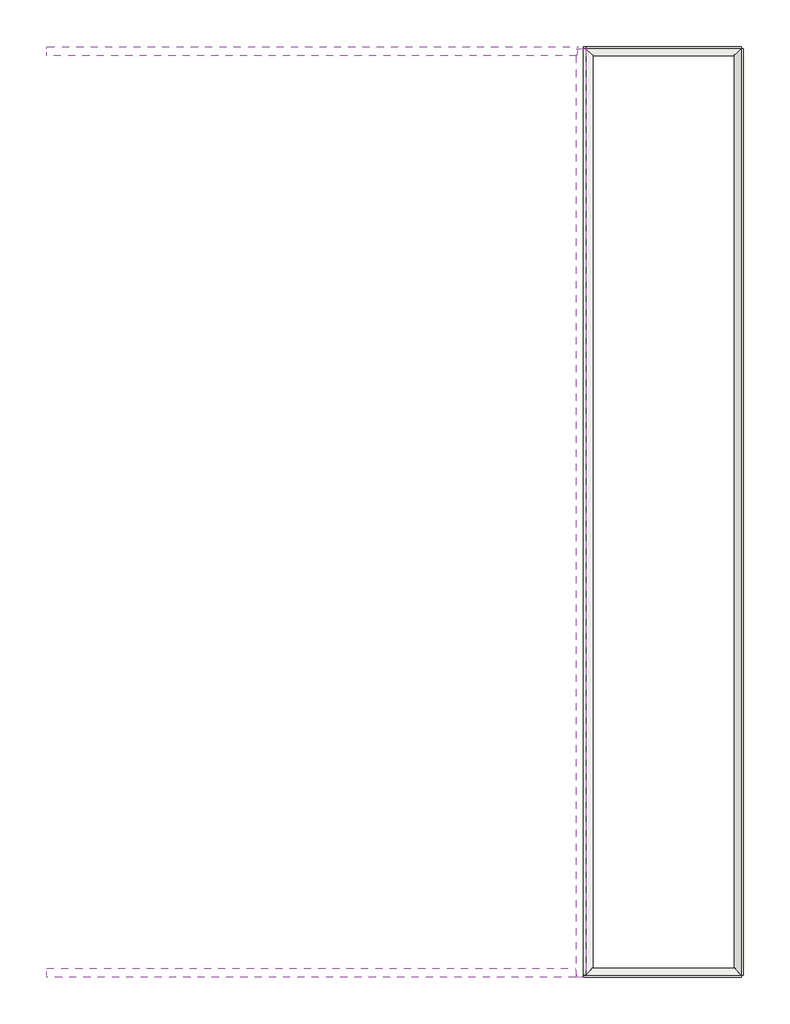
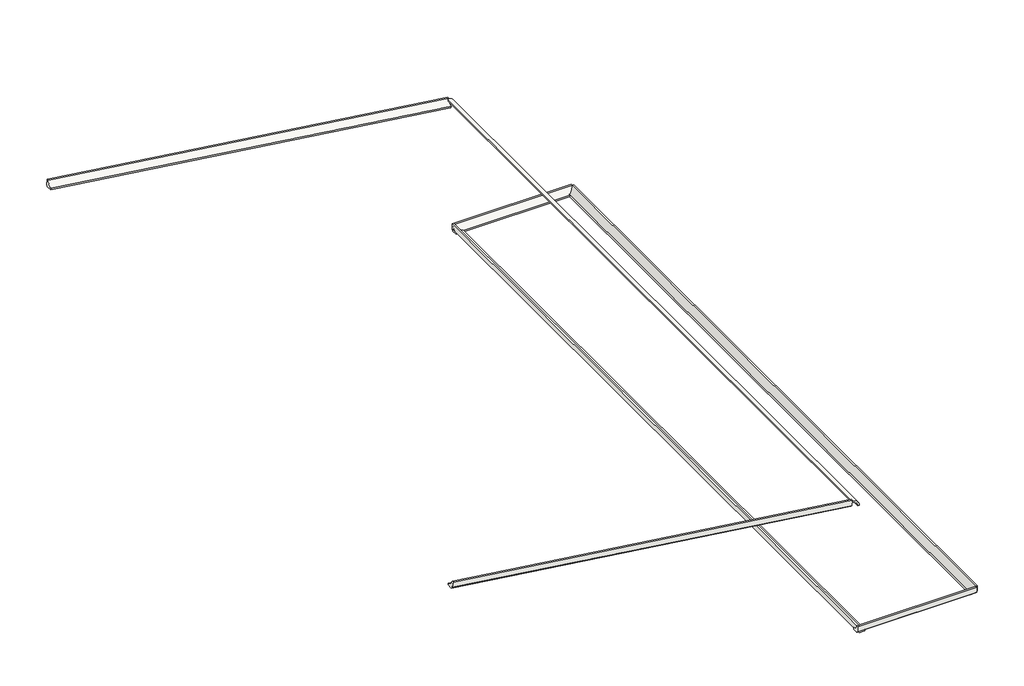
# One storey: 7 slabs.
"""IFC4 building model written with IfcOpenShell, lengths in millimetres."""

from ifc_helpers import new_model, si_unit, origin, place, context, project, spatial, transform, mapped, element, save
from components import slab_f4dc06cf, slab_ce24003f, slab_501e5d73, slab_87185b7d, slab_86962020, slab_4a0eac2f

model = new_model("IFC4")

# Units and contexts
model_context = context("Model", 3, world=origin())
ifc_project = project(units=[si_unit("LENGTHUNIT", "METRE", prefix="MILLI")], contexts=[model_context])

# Site, building, storey
site = spatial("IfcSite", under=ifc_project)
building = spatial("IfcBuilding", under=site)
storey = spatial("IfcBuildingStorey", under=building, Name="4_NFondo2P1 -3.3", Elevation=-3300.0)

# Slabs
placement = place(None, origin())
slab_shape = slab_f4dc06cf(model_context)
element("IfcSlab", 1, ObjectType="ROSA GRES_188 : Pieza 188_Tresor_Bali_Anti-Slip", at=placement, inside=storey, context=model_context, shape_type="MappedRepresentation", body=[
    mapped(slab_shape, transform((9150.7247186, 12160.1559088, -2489.9734114), x_axis=(0.0, -1.0, 0.0), y_axis=(1.0, 0.0, 0.0), z_axis=(0.0, 0.0, 1.0))),
])
slab_2_shape = slab_ce24003f(model_context)
element("IfcSlab", 2, ObjectType="ROSA GRES_188 : Pieza 188_Tresor_Bali_Anti-Slip", at=placement, inside=storey, context=model_context, shape_type="MappedRepresentation", body=[
    mapped(slab_2_shape, transform((9150.7247186, 8140.4324974, -2489.9734114), x_axis=(1.0, 0.0, 0.0), y_axis=(0.0, 1.0, 0.0), z_axis=(0.0, 0.0, 1.0))),
])
element("IfcSlab", 3, ObjectType="ROSA GRES_188 : Pieza 188_Tresor_Bali_Anti-Slip", at=placement, inside=storey, context=model_context, shape_type="MappedRepresentation", body=[
    mapped(slab_2_shape, transform((9831.44813, 12160.1559088, -2489.9734114), x_axis=(-1.0, 0.0, 0.0), y_axis=(0.0, -1.0, 0.0), z_axis=(0.0, 0.0, 1.0))),
])
slab_3_shape = slab_501e5d73(model_context)
element("IfcSlab", 4, ObjectType="ROSA GRES_183 : Pieza 183_Tresor_Bali_Anti-Slip", at=placement, inside=storey, context=model_context, shape_type="MappedRepresentation", body=[
    mapped(slab_3_shape, transform((9120.69813, 8140.4590859, -1720.0), x_axis=(0.0, 1.0, 0.0), y_axis=(-1.0, 0.0, 0.0), z_axis=(0.0, 0.0, 1.0))),
])
slab_4_shape = slab_87185b7d(model_context)
element("IfcSlab", 5, ObjectType="ROSA GRES_188 : Pieza 188_Tresor_Bali_Anti-Slip", at=placement, inside=storey, context=model_context, shape_type="MappedRepresentation", body=[
    mapped(slab_4_shape, transform((9121.3166881, 12160.1824974, -1715.3608145), x_axis=(-0.9912279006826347, 0.0, 0.13216372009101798), y_axis=(0.0, -1.0, 0.0), z_axis=(0.13216372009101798, 0.0, 0.9912279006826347))),
])
slab_5_shape = slab_86962020(model_context)
element("IfcSlab", 6, ObjectType="ROSA GRES_188 : Pieza 188_Tresor_Bali_Anti-Slip", at=placement, inside=storey, context=model_context, shape_type="MappedRepresentation", body=[
    mapped(slab_5_shape, transform((6830.2550069, 8140.4590859, -1409.8859237), x_axis=(0.9912279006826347, 0.0, -0.13216372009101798), y_axis=(0.0, 1.0, 0.0), z_axis=(0.13216372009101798, 0.0, 0.9912279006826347))),
])
slab_6_shape = slab_4a0eac2f(model_context)
element("IfcSlab", 7, ObjectType="ROSA GRES_188 : Pieza 188_Tresor_Bali_Anti-Slip", at=placement, inside=storey, context=model_context, shape_type="MappedRepresentation", body=[
    mapped(slab_6_shape, transform((9841.44813, 12150.1824974, -2489.9734114), x_axis=(0.0, -1.0, 0.0), y_axis=(0.0, 0.0, 1.0), z_axis=(-1.0, 0.0, 0.0))),
])

save(model, "model.ifc")
